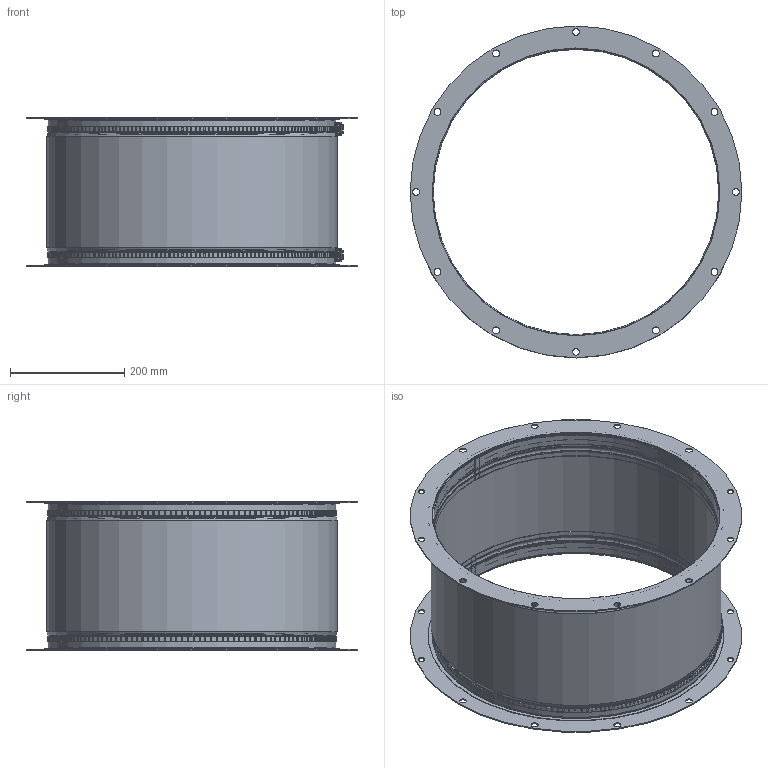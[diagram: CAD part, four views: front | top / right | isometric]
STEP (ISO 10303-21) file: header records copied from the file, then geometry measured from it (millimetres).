
FILE_DESCRIPTION(/* description */ ('Antivibration connector P-DRG ZPD-710 SE'),/* implementation_level */ '2;1');
FILE_NAME(/* name */ 'Y:\VaultRobocze\Designs\2\0\02\900 4600\2 002 900 4600.stp',/* time_stamp */ '2018-03-30T10:40:23+02:00',/* author */ ('TomaszCie'),/* organization */ (''),/* preprocessor_version */ 'ST-DEVELOPER v16.13',/* originating_system */ 'Autodesk Inventor 2018',/* authorisation */ '');
FILE_SCHEMA (('AUTOMOTIVE_DESIGN { 1 0 10303 214 3 1 1 }'));
Length unit declared in the file: millimetre
Products named in the file (10): 2 002 900 4600; 2 002 901 4600; 2 002 901 3701; 2 002 901 3702 1; Compensator ZPD-710 400C; Duct clisp SBF; k0043_1430701_03; k0043_1430701_02; k0043_1430701_01; Tape SBF
Assembly tree (12 placements, depth 3):
  2 002 900 4600
    2 002 901 4600  x2
      2 002 901 3701
      2 002 901 3702 1
    Compensator ZPD-710 400C
    Duct clisp SBF  x2
      k0043_1430701_03
      k0043_1430701_02
      k0043_1430701_01
    Tape SBF  x2
Bounding box: 581 x 581 x 260 mm (x, y, z)
Volume: 652602.9 mm3; surface area: 1524213.1 mm2
Topology: 13 solids, 13 shells, 3620 faces, 9616 edges, 6386 vertices
Faces by surface type: plane 1954, cylinder 1618, bspline 28, torus 16, cone 4
Full cylindrical faces by diameter (mm): 12 x24, 503 x2, 503.5 x2, 504 x2, 508 x1, 509 x1, 581 x2
Entity records: 61759 total; most frequent: CARTESIAN_POINT 16474, ORIENTED_EDGE 9562, DIRECTION 8999, EDGE_CURVE 4781, VERTEX_POINT 3187, AXIS2_PLACEMENT_3D 3124, LINE 2751, VECTOR 2751
